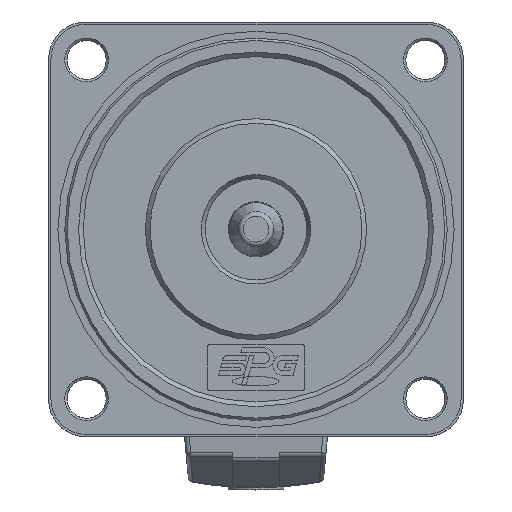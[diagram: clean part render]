
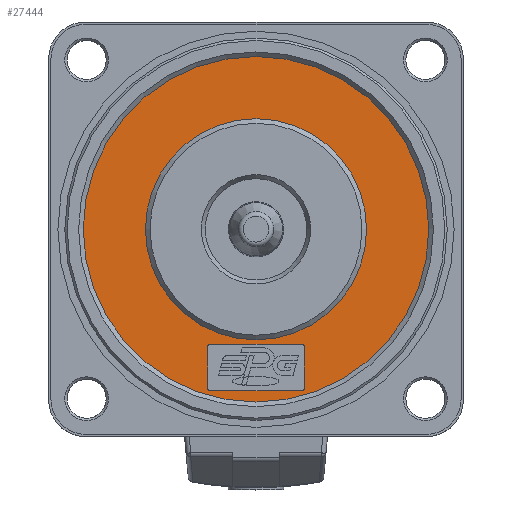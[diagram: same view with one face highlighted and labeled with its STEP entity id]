
A CAD part, top view. The second image highlights one B-rep face of the part: STEP entity #27444.
In plain terms, the highlighted planar face has unit normal (0, 0, 1).
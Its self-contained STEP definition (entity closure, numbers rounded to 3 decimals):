
#27015=CARTESIAN_POINT('',(71.389,100.667,159.563));
#27016=VERTEX_POINT('',#27015);
#27023=CARTESIAN_POINT('',(71.889,101.167,159.563));
#27024=VERTEX_POINT('',#27023);
#27025=CARTESIAN_POINT('',(71.389,101.167,159.563));
#27026=DIRECTION('',(0.0,0.0,-1.0));
#27027=DIRECTION('',(0.0,-1.0,0.0));
#27028=AXIS2_PLACEMENT_3D('',#27025,#27026,#27027);
#27029=CIRCLE('',#27028,0.5);
#27030=EDGE_CURVE('',#27024,#27016,#27029,.T.);
#27055=CARTESIAN_POINT('',(71.889,110.167,159.563));
#27056=VERTEX_POINT('',#27055);
#27057=CARTESIAN_POINT('',(71.889,110.167,159.563));
#27058=DIRECTION('',(0.0,-1.0,0.0));
#27059=VECTOR('',#27058,9.0);
#27060=LINE('',#27057,#27059);
#27061=EDGE_CURVE('',#27056,#27024,#27060,.T.);
#27087=CARTESIAN_POINT('',(71.389,110.667,159.563));
#27088=VERTEX_POINT('',#27087);
#27089=CARTESIAN_POINT('',(71.389,110.167,159.563));
#27090=DIRECTION('',(0.0,0.0,-1.0));
#27091=DIRECTION('',(1.0,0.0,0.0));
#27092=AXIS2_PLACEMENT_3D('',#27089,#27090,#27091);
#27093=CIRCLE('',#27092,0.5);
#27094=EDGE_CURVE('',#27088,#27056,#27093,.T.);
#27119=CARTESIAN_POINT('',(51.389,110.667,159.563));
#27120=VERTEX_POINT('',#27119);
#27121=CARTESIAN_POINT('',(51.389,110.667,159.563));
#27122=DIRECTION('',(1.0,0.0,0.0));
#27123=VECTOR('',#27122,20.0);
#27124=LINE('',#27121,#27123);
#27125=EDGE_CURVE('',#27120,#27088,#27124,.T.);
#27151=CARTESIAN_POINT('',(50.889,110.167,159.563));
#27152=VERTEX_POINT('',#27151);
#27153=CARTESIAN_POINT('',(51.389,110.167,159.563));
#27154=DIRECTION('',(0.0,0.0,-1.0));
#27155=DIRECTION('',(0.0,1.0,0.0));
#27156=AXIS2_PLACEMENT_3D('',#27153,#27154,#27155);
#27157=CIRCLE('',#27156,0.5);
#27158=EDGE_CURVE('',#27152,#27120,#27157,.T.);
#27183=CARTESIAN_POINT('',(50.889,101.167,159.563));
#27184=VERTEX_POINT('',#27183);
#27185=CARTESIAN_POINT('',(50.889,101.167,159.563));
#27186=DIRECTION('',(0.0,1.0,0.0));
#27187=VECTOR('',#27186,9.);
#27188=LINE('',#27185,#27187);
#27189=EDGE_CURVE('',#27184,#27152,#27188,.T.);
#27215=CARTESIAN_POINT('',(51.389,100.667,159.563));
#27216=VERTEX_POINT('',#27215);
#27217=CARTESIAN_POINT('',(51.389,101.167,159.563));
#27218=DIRECTION('',(0.0,0.0,-1.0));
#27219=DIRECTION('',(-1.0,0.0,0.0));
#27220=AXIS2_PLACEMENT_3D('',#27217,#27218,#27219);
#27221=CIRCLE('',#27220,0.5);
#27222=EDGE_CURVE('',#27216,#27184,#27221,.T.);
#27245=CARTESIAN_POINT('',(71.389,100.667,159.563));
#27246=DIRECTION('',(-1.0,0.0,0.0));
#27247=VECTOR('',#27246,20.0);
#27248=LINE('',#27245,#27247);
#27249=EDGE_CURVE('',#27016,#27216,#27248,.T.);
#27400=CARTESIAN_POINT('',(85.389,135.667,159.563));
#27401=VERTEX_POINT('',#27400);
#27402=CARTESIAN_POINT('',(61.389,135.667,159.563));
#27403=DIRECTION('',(0.0,0.0,1.0));
#27404=DIRECTION('',(-1.0,0.0,0.0));
#27405=AXIS2_PLACEMENT_3D('',#27402,#27403,#27404);
#27406=CIRCLE('',#27405,24.);
#27407=EDGE_CURVE('',#27401,#27401,#27406,.T.);
#27415=CARTESIAN_POINT('',(61.389,135.667,159.563));
#27416=DIRECTION('',(0.0,0.0,-1.0));
#27417=DIRECTION('',(-1.0,0.0,0.0));
#27418=AXIS2_PLACEMENT_3D('',#27415,#27416,#27417);
#27419=PLANE('',#27418);
#27420=CARTESIAN_POINT('',(98.889,135.667,159.563));
#27421=VERTEX_POINT('',#27420);
#27422=CARTESIAN_POINT('',(61.389,135.667,159.563));
#27423=DIRECTION('',(0.0,0.0,-1.0));
#27424=DIRECTION('',(-1.0,0.0,0.0));
#27425=AXIS2_PLACEMENT_3D('',#27422,#27423,#27424);
#27426=CIRCLE('',#27425,37.5);
#27427=EDGE_CURVE('',#27421,#27421,#27426,.T.);
#27428=ORIENTED_EDGE('',*,*,#27427,.F.);
#27429=EDGE_LOOP('',(#27428));
#27430=FACE_OUTER_BOUND('',#27429,.T.);
#27431=ORIENTED_EDGE('',*,*,#27030,.T.);
#27432=ORIENTED_EDGE('',*,*,#27249,.T.);
#27433=ORIENTED_EDGE('',*,*,#27222,.T.);
#27434=ORIENTED_EDGE('',*,*,#27189,.T.);
#27435=ORIENTED_EDGE('',*,*,#27158,.T.);
#27436=ORIENTED_EDGE('',*,*,#27125,.T.);
#27437=ORIENTED_EDGE('',*,*,#27094,.T.);
#27438=ORIENTED_EDGE('',*,*,#27061,.T.);
#27439=EDGE_LOOP('',(#27431,#27432,#27433,#27434,#27435,#27436,#27437,#27438));
#27440=FACE_BOUND('',#27439,.T.);
#27441=ORIENTED_EDGE('',*,*,#27407,.F.);
#27442=EDGE_LOOP('',(#27441));
#27443=FACE_BOUND('',#27442,.T.);
#27444=ADVANCED_FACE('',(#27430,#27440,#27443),#27419,.F.);
